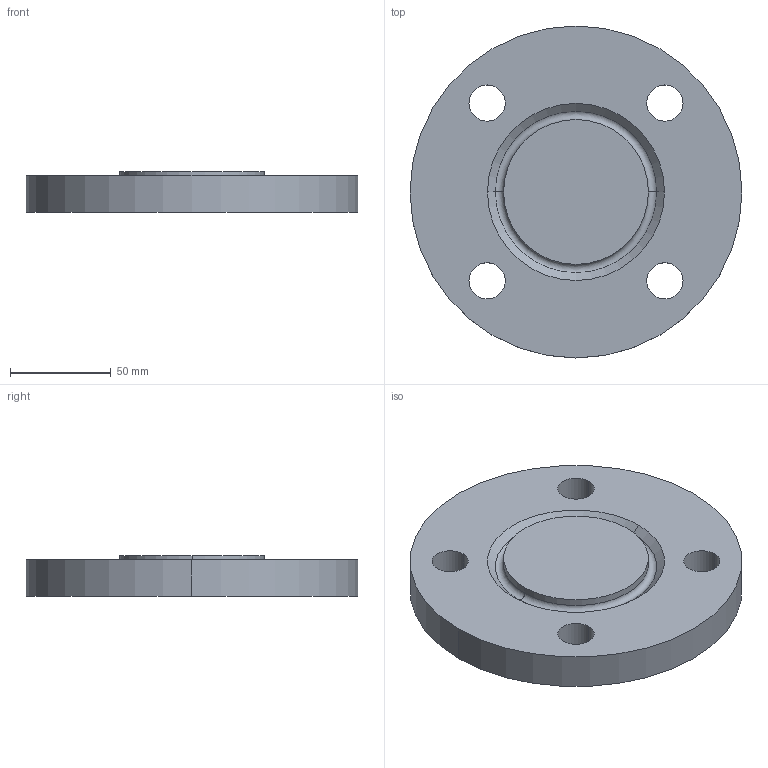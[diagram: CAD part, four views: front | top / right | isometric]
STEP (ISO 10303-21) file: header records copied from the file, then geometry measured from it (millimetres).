
FILE_DESCRIPTION (( 'STEP AP214' ), '1' );
FILE_NAME ('PN40 DN50 Type 05 - Type H Face.STEP', '2018-12-30T04:39:18', ( '' ), ( '' ), 'SwSTEP 2.0', 'SolidWorks 2019', '' );
FILE_SCHEMA (( 'AUTOMOTIVE_DESIGN' ));
Length unit declared in the file: millimetre
Products named in the file (1): PN40 DN50 Type 05 - Type H Face
Bounding box: 165 x 165 x 20 mm (x, y, z)
Volume: 369430.2 mm3; surface area: 55622.7 mm2
Topology: 1 solids, 1 shells, 19 faces, 44 edges, 28 vertices
Faces by surface type: cylinder 12, plane 3, torus 2, cone 2
Entity records: 606 total; most frequent: DIRECTION 114, CARTESIAN_POINT 92, ORIENTED_EDGE 88, AXIS2_PLACEMENT_3D 50, EDGE_CURVE 44, CIRCLE 30, EDGE_LOOP 28, VERTEX_POINT 28
